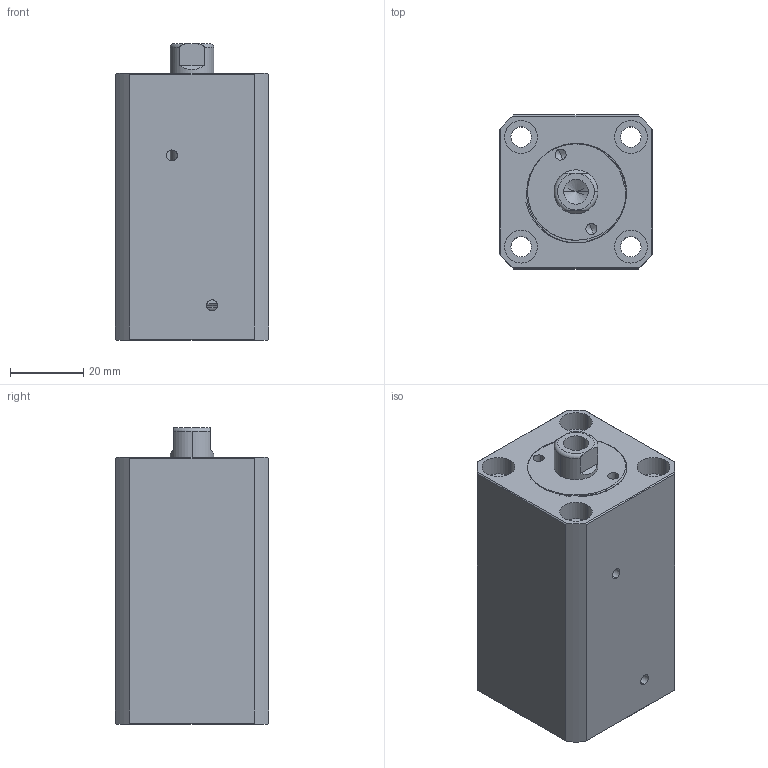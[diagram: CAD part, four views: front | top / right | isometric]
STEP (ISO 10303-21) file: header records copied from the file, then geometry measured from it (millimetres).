
FILE_DESCRIPTION (( 'STEP AP214' ), '1' );
FILE_NAME ('chtb-sdmb20x30n_asm.STEP', '2018-05-18T08:26:52', ( 'Windows' ), ( 'Microsoft' ), 'SwSTEP 2.0', 'SolidWorks 2015', '' );
FILE_SCHEMA (( 'AUTOMOTIVE_DESIGN' ));
Length unit declared in the file: millimetre
Products named in the file (4): QG_3; CHTB-SDMB20X30NHSG; CHTB-SDMB20X30NBT; chtb-sdmb20x30n_asm
Assembly tree (3 placements, depth 2):
  chtb-sdmb20x30n_asm
    CHTB-SDMB20X30NBT
    CHTB-SDMB20X30NHSG
    QG_3
Bounding box: 42 x 42 x 81 mm (x, y, z)
Volume: 109961.5 mm3; surface area: 34457.8 mm2
Topology: 3 solids, 3 shells, 201 faces, 535 edges, 354 vertices
Faces by surface type: cylinder 106, plane 43, torus 25, bspline 21, cone 6
Entity records: 11558 total; most frequent: CARTESIAN_POINT 6663, ORIENTED_EDGE 1058, DIRECTION 922, EDGE_CURVE 529, AXIS2_PLACEMENT_3D 388, VERTEX_POINT 354, EDGE_LOOP 239, CIRCLE 202
